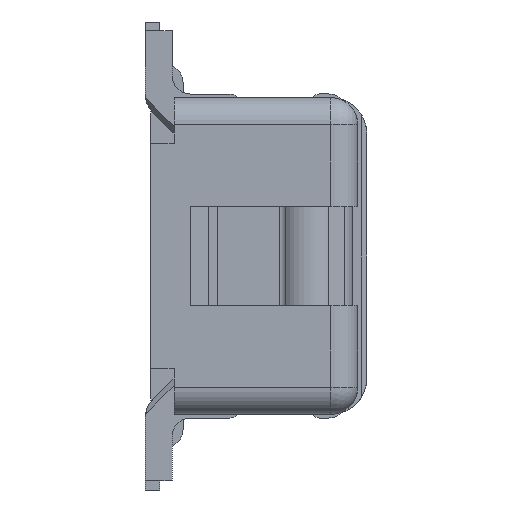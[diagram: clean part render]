
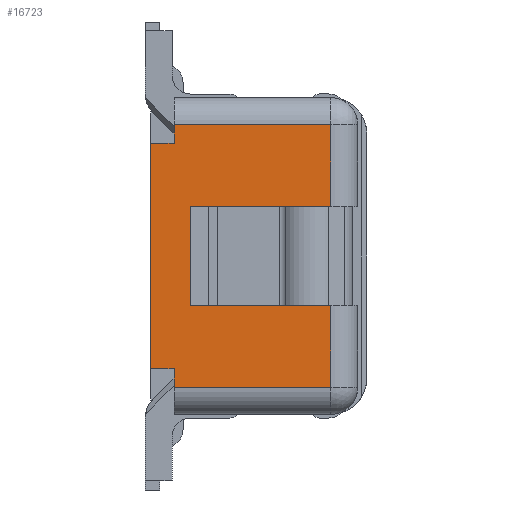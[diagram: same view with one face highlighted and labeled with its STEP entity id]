
A CAD part, left-side view. The second image highlights one B-rep face of the part: STEP entity #16723.
In plain terms, the highlighted planar face has unit normal (-1, 0, 0).
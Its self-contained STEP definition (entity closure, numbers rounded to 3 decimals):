
#34 = CARTESIAN_POINT ( 'NONE',  ( -4.26, 1.47, 0.625 ) ) ;
#441 = DIRECTION ( 'NONE',  ( 0., 1., 0. ) ) ;
#541 = CARTESIAN_POINT ( 'NONE',  ( -4.26, 0.47, -0.73 ) ) ;
#547 = VERTEX_POINT ( 'NONE', #4962 ) ;
#617 = LINE ( 'NONE', #2891, #24617 ) ;
#982 = LINE ( 'NONE', #28892, #9367 ) ;
#1034 = ORIENTED_EDGE ( 'NONE', *, *, #19951, .T. ) ;
#1068 = EDGE_LOOP ( 'NONE', ( #12813, #11762, #13999, #22694, #14560, #7881, #17003, #19419, #14101, #1034, #2842, #29476 ) ) ;
#1418 = CARTESIAN_POINT ( 'NONE',  ( -4.26, 1.25, 0.275 ) ) ;
#1770 = DIRECTION ( 'NONE',  ( 0., 0., -1. ) ) ;
#2613 = DIRECTION ( 'NONE',  ( 0., -1., 0. ) ) ;
#2842 = ORIENTED_EDGE ( 'NONE', *, *, #17752, .T. ) ;
#2891 = CARTESIAN_POINT ( 'NONE',  ( -4.26, 1.47, 0.88 ) ) ;
#3062 = VERTEX_POINT ( 'NONE', #19703 ) ;
#3175 = LINE ( 'NONE', #8693, #14811 ) ;
#3315 = PLANE ( 'NONE',  #23633 ) ;
#3441 = VERTEX_POINT ( 'NONE', #5041 ) ;
#4922 = VECTOR ( 'NONE', #2613, 1000. ) ;
#4962 = CARTESIAN_POINT ( 'NONE',  ( -4.26, 1.47, -0.625 ) ) ;
#5020 = VECTOR ( 'NONE', #19181, 1000. ) ;
#5041 = CARTESIAN_POINT ( 'NONE',  ( -4.26, 1.34, -0.73 ) ) ;
#5375 = VECTOR ( 'NONE', #14007, 1000. ) ;
#6201 = VERTEX_POINT ( 'NONE', #28911 ) ;
#6302 = CARTESIAN_POINT ( 'NONE',  ( -4.26, 1.34, 0.625 ) ) ;
#6648 = DIRECTION ( 'NONE',  ( 0., 0., -1. ) ) ;
#6990 = CARTESIAN_POINT ( 'NONE',  ( -4.26, 1.34, 0.73 ) ) ;
#7181 = VERTEX_POINT ( 'NONE', #20500 ) ;
#7552 = VECTOR ( 'NONE', #24899, 1000. ) ;
#7599 = LINE ( 'NONE', #28390, #13079 ) ;
#7881 = ORIENTED_EDGE ( 'NONE', *, *, #18785, .T. ) ;
#7995 = DIRECTION ( 'NONE',  ( -1., 0., 0. ) ) ;
#8565 = VECTOR ( 'NONE', #20712, 1000. ) ;
#8693 = CARTESIAN_POINT ( 'NONE',  ( -4.26, 1.34, 0.88 ) ) ;
#9002 = LINE ( 'NONE', #6302, #7552 ) ;
#9367 = VECTOR ( 'NONE', #14963, 1000. ) ;
#9518 = CARTESIAN_POINT ( 'NONE',  ( -4.26, 0.47, 0.73 ) ) ;
#9555 = VECTOR ( 'NONE', #6648, 1000. ) ;
#9695 = VERTEX_POINT ( 'NONE', #34 ) ;
#9949 = CARTESIAN_POINT ( 'NONE',  ( -4.26, 0.47, 0. ) ) ;
#11297 = EDGE_CURVE ( 'NONE', #13027, #18407, #17377, .T. ) ;
#11595 = EDGE_CURVE ( 'NONE', #17430, #3062, #3175, .T. ) ;
#11685 = DIRECTION ( 'NONE',  ( 0., 0., 1. ) ) ;
#11762 = ORIENTED_EDGE ( 'NONE', *, *, #18285, .F. ) ;
#11882 = EDGE_CURVE ( 'NONE', #547, #9695, #617, .T. ) ;
#12252 = DIRECTION ( 'NONE',  ( 0., 0., 1. ) ) ;
#12813 = ORIENTED_EDGE ( 'NONE', *, *, #19805, .T. ) ;
#13027 = VERTEX_POINT ( 'NONE', #21627 ) ;
#13079 = VECTOR ( 'NONE', #441, 1000. ) ;
#13999 = ORIENTED_EDGE ( 'NONE', *, *, #11297, .T. ) ;
#14007 = DIRECTION ( 'NONE',  ( 0., 1., 0. ) ) ;
#14101 = ORIENTED_EDGE ( 'NONE', *, *, #20420, .T. ) ;
#14560 = ORIENTED_EDGE ( 'NONE', *, *, #11595, .T. ) ;
#14811 = VECTOR ( 'NONE', #1770, 1000. ) ;
#14963 = DIRECTION ( 'NONE',  ( 0., 1., 0. ) ) ;
#15728 = LINE ( 'NONE', #15882, #9555 ) ;
#15882 = CARTESIAN_POINT ( 'NONE',  ( -4.26, 1.34, -0.88 ) ) ;
#16723 = ADVANCED_FACE ( 'NONE', ( #21124 ), #3315, .T. ) ;
#17003 = ORIENTED_EDGE ( 'NONE', *, *, #11882, .F. ) ;
#17244 = EDGE_CURVE ( 'NONE', #7181, #6201, #7599, .T. ) ;
#17377 = LINE ( 'NONE', #9949, #5020 ) ;
#17430 = VERTEX_POINT ( 'NONE', #26742 ) ;
#17436 = LINE ( 'NONE', #20927, #22886 ) ;
#17742 = LINE ( 'NONE', #6990, #5375 ) ;
#17752 = EDGE_CURVE ( 'NONE', #20658, #7181, #17436, .T. ) ;
#18242 = DIRECTION ( 'NONE',  ( 0., 1., 0. ) ) ;
#18285 = EDGE_CURVE ( 'NONE', #13027, #18717, #22125, .T. ) ;
#18407 = VERTEX_POINT ( 'NONE', #9518 ) ;
#18717 = VERTEX_POINT ( 'NONE', #1418 ) ;
#18785 = EDGE_CURVE ( 'NONE', #3062, #9695, #9002, .T. ) ;
#18862 = CARTESIAN_POINT ( 'NONE',  ( -4.26, 0.27, -0.73 ) ) ;
#19181 = DIRECTION ( 'NONE',  ( 0., 0., 1. ) ) ;
#19419 = ORIENTED_EDGE ( 'NONE', *, *, #25275, .F. ) ;
#19567 = CARTESIAN_POINT ( 'NONE',  ( -4.26, 0., 0. ) ) ;
#19703 = CARTESIAN_POINT ( 'NONE',  ( -4.26, 1.34, 0.625 ) ) ;
#19805 = EDGE_CURVE ( 'NONE', #6201, #18717, #27133, .T. ) ;
#19951 = EDGE_CURVE ( 'NONE', #3441, #20658, #23481, .T. ) ;
#20151 = CARTESIAN_POINT ( 'NONE',  ( -4.26, 1.34, -0.625 ) ) ;
#20420 = EDGE_CURVE ( 'NONE', #21451, #3441, #15728, .T. ) ;
#20500 = CARTESIAN_POINT ( 'NONE',  ( -4.26, 0.47, -0.275 ) ) ;
#20658 = VERTEX_POINT ( 'NONE', #541 ) ;
#20678 = VECTOR ( 'NONE', #18242, 1000. ) ;
#20712 = DIRECTION ( 'NONE',  ( 0., 0., 1. ) ) ;
#20927 = CARTESIAN_POINT ( 'NONE',  ( -4.26, 0.47, 0. ) ) ;
#21124 = FACE_OUTER_BOUND ( 'NONE', #1068, .T. ) ;
#21451 = VERTEX_POINT ( 'NONE', #20151 ) ;
#21627 = CARTESIAN_POINT ( 'NONE',  ( -4.26, 0.47, 0.275 ) ) ;
#22125 = LINE ( 'NONE', #25163, #20678 ) ;
#22694 = ORIENTED_EDGE ( 'NONE', *, *, #24656, .T. ) ;
#22886 = VECTOR ( 'NONE', #11685, 1000. ) ;
#23043 = CARTESIAN_POINT ( 'NONE',  ( -4.26, 1.25, 0. ) ) ;
#23481 = LINE ( 'NONE', #18862, #4922 ) ;
#23633 = AXIS2_PLACEMENT_3D ( 'NONE', #19567, #7995, #24243 ) ;
#24243 = DIRECTION ( 'NONE',  ( 0., 0., -1. ) ) ;
#24617 = VECTOR ( 'NONE', #12252, 1000. ) ;
#24656 = EDGE_CURVE ( 'NONE', #18407, #17430, #17742, .T. ) ;
#24899 = DIRECTION ( 'NONE',  ( 0., 1., 0. ) ) ;
#25163 = CARTESIAN_POINT ( 'NONE',  ( -4.26, 0.27, 0.275 ) ) ;
#25275 = EDGE_CURVE ( 'NONE', #21451, #547, #982, .T. ) ;
#26742 = CARTESIAN_POINT ( 'NONE',  ( -4.26, 1.34, 0.73 ) ) ;
#27133 = LINE ( 'NONE', #23043, #8565 ) ;
#28390 = CARTESIAN_POINT ( 'NONE',  ( -4.26, 0.27, -0.275 ) ) ;
#28892 = CARTESIAN_POINT ( 'NONE',  ( -4.26, 1.34, -0.625 ) ) ;
#28911 = CARTESIAN_POINT ( 'NONE',  ( -4.26, 1.25, -0.275 ) ) ;
#29476 = ORIENTED_EDGE ( 'NONE', *, *, #17244, .T. ) ;
